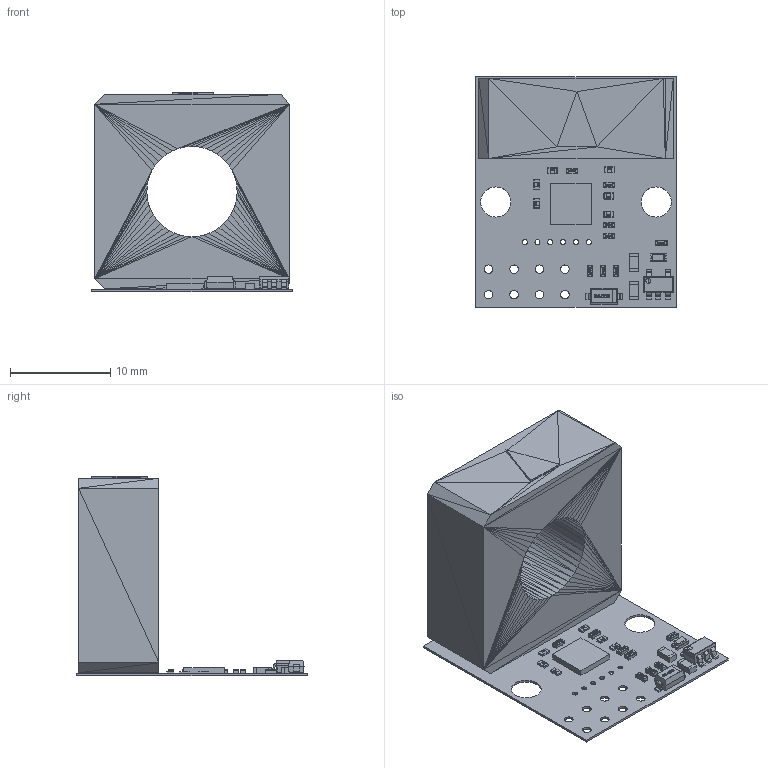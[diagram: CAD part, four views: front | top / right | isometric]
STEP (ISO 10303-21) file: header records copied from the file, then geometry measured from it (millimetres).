
FILE_DESCRIPTION(('Open CASCADE Model'),'2;1');
FILE_NAME('Open CASCADE Shape Model','2022-07-02T13:56:22',('Author'),( 'Open CASCADE'),'Open CASCADE STEP processor 6.8','Open CASCADE 6.8' ,'Unknown');
FILE_SCHEMA(('AUTOMOTIVE_DESIGN { 1 0 10303 214 1 1 1 1 }'));
Products named in the file (1): PCB
Bounding box: 20 x 23 x 19.89 mm (x, y, z)
Volume: 2597.9 mm3; surface area: 2513.9 mm2
Topology: 33 solids, 1182 shells, 1840 faces, 7224 edges, 6535 vertices
Faces by surface type: plane 1184, bspline 339, cylinder 255, sphere 62
Full cylindrical faces by diameter (mm): 0.5 x6, 0.65 x3, 0.85 x8, 2.2 x2, 3 x2
Entity records: 115250 total; most frequent: CARTESIAN_POINT 51457, DIRECTION 9330, ORIENTED_EDGE 8616, EDGE_CURVE 7154, VERTEX_POINT 6535, LINE 4754, VECTOR 4754, AXIS2_PLACEMENT_3D 2288
